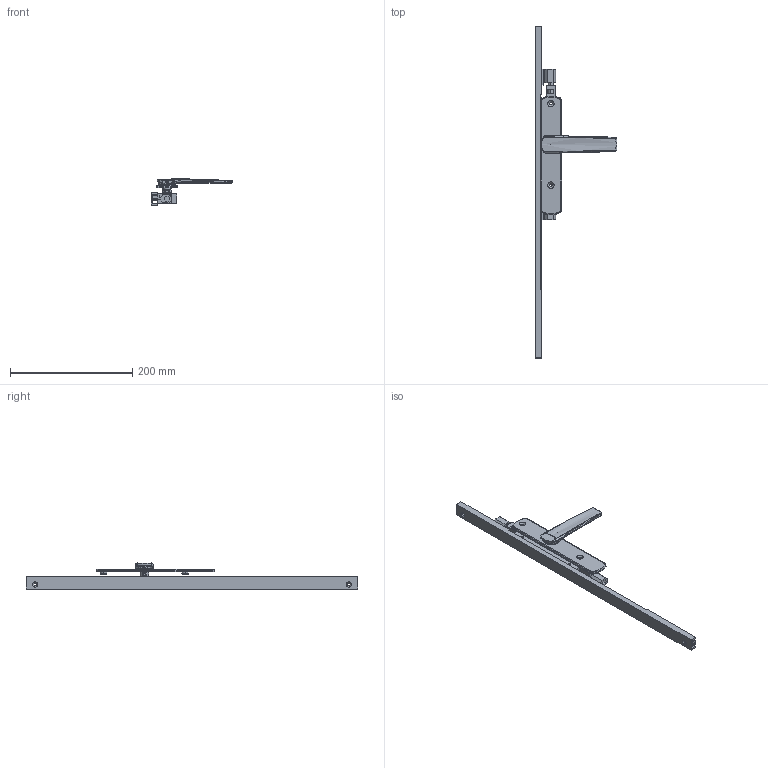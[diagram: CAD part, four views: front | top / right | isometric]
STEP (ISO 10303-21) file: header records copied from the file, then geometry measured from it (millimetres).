
FILE_DESCRIPTION (( 'STEP AP214' ), '1' );
FILE_NAME ('TPL-W-APC-602-U 28Oct2024.STEP', '2024-10-28T01:43:43', ( '' ), ( '' ), 'SwSTEP 2.0', 'SolidWorks 2023', '' );
FILE_SCHEMA (( 'AUTOMOTIVE_DESIGN' ));
Length unit declared in the file: millimetre
Products named in the file (18): Copy of LKC-584 Pivot body zinc - simplified^Copy of TPGen2 handle non-keyed short zinc - simplified_TPL-W-APC-102 18Oct2024; Copy of LKC-516 Escutcheon plate unkeyed 195mm long zinc - simplified^Copy of TPGen2 handle non-keyed short zinc - simplified_TPL-W-APC-102 18Oct2024; Copy of Copy of Copy of LKC-531 Lock twinpoint transmission rod wood system^TPL-W-APC-102 18Oct2024_Standard Range 2891.7mm; Bolt(2)^TPL-W-APC-102 18Oct2024; Copy of TPLGen2 push rod - simplified^Copy of TPLGen2 lock body non-keyed assembly_TPL-W-APC-102 18Oct2024_Female thread M10; Copy of LKC-505 Swing handle zinc - simplified^Copy of TPGen2 handle non-keyed short zinc - simplified_TPL-W-APC-102 18Oct2024; Copy of TPLGen2 lock body non-keyed assembly^TPL-W-APC-102 18Oct2024_Bolts retracted; Adapter C - simplfied^TPL-W-APC-102 18Oct2024; Copy of TPLGen2 lock body non-keyed^Copy of TPLGen2 lock body non-keyed assembly_TPL-W-APC-102 18Oct2024; Adapter D - simplfied^TPL-W-APC-102 18Oct2024; Copy of Copy of LKC-531 Lock twinpoint transmission rod wood system^TPL-W-APC-102 18Oct2024_Standard Range 2891.7mm; Copy of COV-115-B Cover B suit TPLGen2 standard range AU with hinge holes^TPL-W-APC-102 18Oct2024_2870mm; Copy of TPGen2 handle non-keyed short zinc - simplified^TPL-W-APC-102 18Oct2024_Right; Copy of LKC-586 Spindle square 8mm with M4 hole^Copy of TPGen2 handle non-keyed short zinc - simplified_TPL-W-APC-102 18Oct2024_25mm; Copy of COV-115-C Cover C suit TPLGen2 standard range AU^TPL-W-APC-102 18Oct2024; Copy of LKC-585 Rotator body zinc^Copy of TPGen2 handle non-keyed short zinc - simplified_TPL-W-APC-102 18Oct2024; Copy of COV-115-A Cover A suit TPLGen2 standard range AU with hinge holes^TPL-W-APC-102 18Oct2024_1335mm; TPL-W-APC-602-U 28Oct2024
Assembly tree (15 placements, depth 3):
  Bolt(2)^TPL-W-APC-102 18Oct2024
  Copy of COV-115-B Cover B suit TPLGen2 standard range AU with hinge holes^TPL-W-APC-102 18Oct2024_2870mm
  Copy of COV-115-A Cover A suit TPLGen2 standard range AU with hinge holes^TPL-W-APC-102 18Oct2024_1335mm
  TPL-W-APC-602-U 28Oct2024
    Copy of TPLGen2 lock body non-keyed assembly^TPL-W-APC-102 18Oct2024_Bolts retracted
      Copy of TPLGen2 lock body non-keyed^Copy of TPLGen2 lock body non-keyed assembly_TPL-W-APC-102 18Oct2024
      Copy of TPLGen2 push rod - simplified^Copy of TPLGen2 lock body non-keyed assembly_TPL-W-APC-102 18Oct2024_Female thread M10  x2
    Copy of TPGen2 handle non-keyed short zinc - simplified^TPL-W-APC-102 18Oct2024_Right
      Copy of LKC-516 Escutcheon plate unkeyed 195mm long zinc - simplified^Copy of TPGen2 handle non-keyed short zinc - simplified_TPL-W-APC-102 18Oct2024
      Copy of LKC-505 Swing handle zinc - simplified^Copy of TPGen2 handle non-keyed short zinc - simplified_TPL-W-APC-102 18Oct2024
      Copy of LKC-585 Rotator body zinc^Copy of TPGen2 handle non-keyed short zinc - simplified_TPL-W-APC-102 18Oct2024
      Copy of LKC-586 Spindle square 8mm with M4 hole^Copy of TPGen2 handle non-keyed short zinc - simplified_TPL-W-APC-102 18Oct2024_25mm
      Copy of LKC-584 Pivot body zinc - simplified^Copy of TPGen2 handle non-keyed short zinc - simplified_TPL-W-APC-102 18Oct2024
    Copy of COV-115-C Cover C suit TPLGen2 standard range AU^TPL-W-APC-102 18Oct2024
    Copy of Copy of LKC-531 Lock twinpoint transmission rod wood system^TPL-W-APC-102 18Oct2024_Standard Range 2891.7mm
    Copy of Copy of Copy of LKC-531 Lock twinpoint transmission rod wood system^TPL-W-APC-102 18Oct2024_Standard Range 2891.7mm
    Adapter D - simplfied^TPL-W-APC-102 18Oct2024
    Adapter C - simplfied^TPL-W-APC-102 18Oct2024
Bounding box: 134.12 x 544 x 42.86 mm (x, y, z)
Volume: 202279.4 mm3; surface area: 113599.9 mm2
Topology: 13 solids, 13 shells, 843 faces, 2076 edges, 1288 vertices
Faces by surface type: plane 300, bspline 241, cylinder 182, cone 66, torus 46, sphere 8
Entity records: 30415 total; most frequent: CARTESIAN_POINT 12515, ORIENTED_EDGE 3960, DIRECTION 3150, EDGE_CURVE 1980, VERTEX_POINT 1228, AXIS2_PLACEMENT_3D 1141, EDGE_LOOP 890, LINE 868
